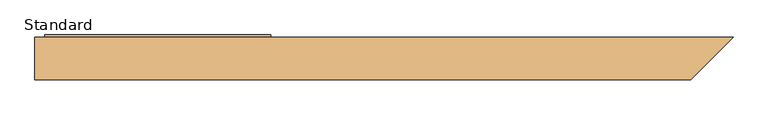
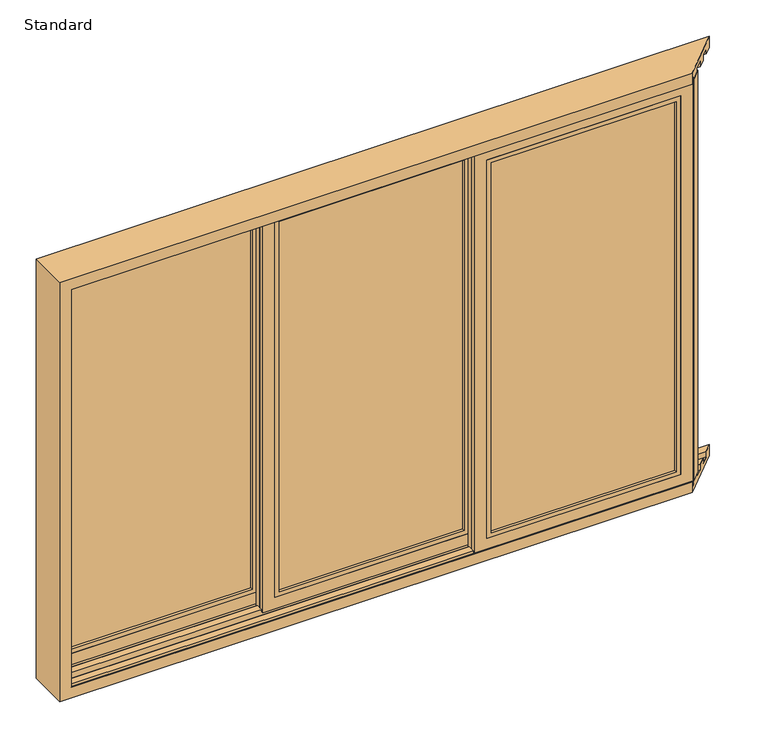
"""IFC4 building model written with IfcOpenShell, lengths in millimetres: door geometry, SMARTS_Visoglide Plus Corner Opening : Standard."""

from ifc_helpers import new_model, si_unit, frame, origin, place, context, project, spatial, polyline, outline, extrude, faceted_brep, source, transform, mapped, element, save


def standard_5c9ee6a3(model_context):
    return source(origin(), model_context, "Body", "SolidModel", [
        extrude(outline(polyline([(1348.0, -67.0), (484.8333333, -67.0), (484.8333333, -63.0), (1348.0, -63.0), (1348.0, -67.0)])), frame((0.0, 0.0, 952.5), z_axis=(0.0, 0.0, 1.0), x_axis=(1.0, 0.0, 0.0)), (0.0, 0.0, 1.0), 1795.0),
        extrude(outline(polyline([(1348.0, -47.0), (484.8333333, -47.0), (484.8333333, -43.0), (1348.0, -43.0), (1348.0, -47.0)])), frame((0.0, 0.0, 952.5), z_axis=(0.0, 0.0, 1.0), x_axis=(1.0, 0.0, 0.0)), (0.0, 0.0, 1.0), 1795.0),
        extrude(outline(polyline([(2747.5, 484.8333333), (952.5, 484.8333333), (952.5, 1348.0), (2747.5, 1348.0), (2747.5, 484.8333333)]), holes=[polyline([(2737.5, 1338.0), (962.5, 1338.0), (962.5, 494.8333333), (2737.5, 494.8333333), (2737.5, 1338.0)])]), frame((0.0, -63.0, 0.0), z_axis=(0.0, 1.0, 0.0), x_axis=(0.0, 0.0, 1.0)), (0.0, 0.0, 1.0), 16.0),
        extrude(outline(polyline([(2752.5, 1353.0), (2752.5, 479.8333333), (947.5, 479.8333333), (947.5, 1353.0), (2752.5, 1353.0)]), holes=[polyline([(967.5, 1333.0), (967.5, 499.8333333), (2732.5, 499.8333333), (2732.5, 1333.0), (967.5, 1333.0)])]), frame((0.0, -86.0, 0.0), z_axis=(0.0, 1.0, 0.0), x_axis=(0.0, 0.0, 1.0)), (0.0, 0.0, 1.0), 11.9897777),
        extrude(outline(polyline([(2806.5, 1407.0), (2806.5, 425.8333333), (893.5, 425.8333333), (893.5, 1407.0), (2806.5, 1407.0)]), holes=[polyline([(947.5, 1353.0), (947.5, 479.8333333), (2752.5, 479.8333333), (2752.5, 1353.0), (947.5, 1353.0)])]), frame((0.0, -86.0, 0.0), z_axis=(0.0, 1.0, 0.0), x_axis=(0.0, 0.0, 1.0)), (0.0, 0.0, 1.0), 24.0),
        faceted_brep([(1333.0, -39.0, 2732.5), (1333.0, -35.0, 2732.5), (1333.0, -35.0, 967.5), (1333.0, -39.0, 967.5), (1356.0, -62.0, 2755.5), (1356.0, -39.0, 2755.5), (1356.0, -39.0, 944.5), (1356.0, -62.0, 944.5), (1407.0, -35.0, 2806.5), (1407.0, -62.0, 2806.5), (1407.0, -62.0, 893.5), (1407.0, -35.0, 893.5), (499.8333333, -35.0, 967.5), (499.8333333, -39.0, 967.5), (476.8333333, -39.0, 944.5), (476.8333333, -62.0, 944.5), (425.8333333, -62.0, 893.5), (425.8333333, -35.0, 893.5), (499.8333333, -35.0, 2732.5), (499.8333333, -39.0, 2732.5), (476.8333333, -39.0, 2755.5), (476.8333333, -62.0, 2755.5), (425.8333333, -62.0, 2806.5), (425.8333333, -35.0, 2806.5)], [[[0, 1, 2, 3]], [[4, 5, 6, 7]], [[8, 9, 10, 11]], [[3, 2, 12, 13]], [[7, 6, 14, 15]], [[11, 10, 16, 17]], [[13, 12, 18, 19]], [[15, 14, 20, 21]], [[17, 16, 22, 23]], [[11, 17, 23, 8], [1, 18, 12, 2]], [[19, 18, 1, 0]], [[5, 20, 14, 6], [3, 13, 19, 0]], [[21, 20, 5, 4]], [[9, 22, 16, 10], [7, 15, 21, 4]], [[23, 22, 9, 8]]]),
        extrude(outline(polyline([(431.8333333, 0.0), (-431.3333333, 0.0), (-431.3333333, 4.0), (431.8333333, 4.0), (431.8333333, 0.0)])), frame((0.0, 0.0, 952.5), z_axis=(0.0, 0.0, 1.0), x_axis=(1.0, 0.0, 0.0)), (0.0, 0.0, 1.0), 1795.0),
        extrude(outline(polyline([(431.8333333, 20.0), (-431.3333333, 20.0), (-431.3333333, 24.0), (431.8333333, 24.0), (431.8333333, 20.0)])), frame((0.0, 0.0, 952.5), z_axis=(0.0, 0.0, 1.0), x_axis=(1.0, 0.0, 0.0)), (0.0, 0.0, 1.0), 1795.0),
        extrude(outline(polyline([(2747.5, -431.3333333), (952.5, -431.3333333), (952.5, 431.8333333), (2747.5, 431.8333333), (2747.5, -431.3333333)]), holes=[polyline([(2737.5, 421.8333333), (962.5, 421.8333333), (962.5, -421.3333333), (2737.5, -421.3333333), (2737.5, 421.8333333)])]), frame((0.0, 4.0, 0.0), z_axis=(0.0, 1.0, 0.0), x_axis=(0.0, 0.0, 1.0)), (0.0, 0.0, 1.0), 16.0),
        extrude(outline(polyline([(2752.5, 436.8333333), (2752.5, -436.3333333), (947.5, -436.3333333), (947.5, 436.8333333), (2752.5, 436.8333333)]), holes=[polyline([(967.5, 416.8333333), (967.5, -416.3333333), (2732.5, -416.3333333), (2732.5, 416.8333333), (967.5, 416.8333333)])]), frame((0.0, -19.0, 0.0), z_axis=(0.0, 1.0, 0.0), x_axis=(0.0, 0.0, 1.0)), (0.0, 0.0, 1.0), 11.9897777),
        extrude(outline(polyline([(2806.5, 490.8333333), (2806.5, -490.3333333), (893.5, -490.3333333), (893.5, 490.8333333), (2806.5, 490.8333333)]), holes=[polyline([(947.5, 436.8333333), (947.5, -436.3333333), (2752.5, -436.3333333), (2752.5, 436.8333333), (947.5, 436.8333333)])]), frame((0.0, -19.0, 0.0), z_axis=(0.0, 1.0, 0.0), x_axis=(0.0, 0.0, 1.0)), (0.0, 0.0, 1.0), 24.0),
        faceted_brep([(416.8333333, 28.0, 2732.5), (416.8333333, 32.0, 2732.5), (416.8333333, 32.0, 967.5), (416.8333333, 28.0, 967.5), (439.8333333, 5.0, 2755.5), (439.8333333, 28.0, 2755.5), (439.8333333, 28.0, 944.5), (439.8333333, 5.0, 944.5), (490.8333333, 32.0, 2806.5), (490.8333333, 5.0, 2806.5), (490.8333333, 5.0, 893.5), (490.8333333, 32.0, 893.5), (-416.3333333, 32.0, 967.5), (-416.3333333, 28.0, 967.5), (-439.3333333, 28.0, 944.5), (-439.3333333, 5.0, 944.5), (-490.3333333, 5.0, 893.5), (-490.3333333, 32.0, 893.5), (-416.3333333, 32.0, 2732.5), (-416.3333333, 28.0, 2732.5), (-439.3333333, 28.0, 2755.5), (-439.3333333, 5.0, 2755.5), (-490.3333333, 5.0, 2806.5), (-490.3333333, 32.0, 2806.5)], [[[0, 1, 2, 3]], [[4, 5, 6, 7]], [[8, 9, 10, 11]], [[3, 2, 12, 13]], [[7, 6, 14, 15]], [[11, 10, 16, 17]], [[13, 12, 18, 19]], [[15, 14, 20, 21]], [[17, 16, 22, 23]], [[11, 17, 23, 8], [1, 18, 12, 2]], [[19, 18, 1, 0]], [[5, 20, 14, 6], [3, 13, 19, 0]], [[21, 20, 5, 4]], [[9, 22, 16, 10], [7, 15, 21, 4]], [[23, 22, 9, 8]]]),
        extrude(outline(polyline([(-484.3333333, 67.0), (-1347.5, 67.0), (-1347.5, 71.0), (-484.3333333, 71.0), (-484.3333333, 67.0)])), frame((0.0, 0.0, 952.5), z_axis=(0.0, 0.0, 1.0), x_axis=(1.0, 0.0, 0.0)), (0.0, 0.0, 1.0), 1795.0),
        extrude(outline(polyline([(-484.3333333, 87.0), (-1347.5, 87.0), (-1347.5, 91.0), (-484.3333333, 91.0), (-484.3333333, 87.0)])), frame((0.0, 0.0, 952.5), z_axis=(0.0, 0.0, 1.0), x_axis=(1.0, 0.0, 0.0)), (0.0, 0.0, 1.0), 1795.0),
        extrude(outline(polyline([(2747.5, -1347.5), (952.5, -1347.5), (952.5, -484.3333333), (2747.5, -484.3333333), (2747.5, -1347.5)]), holes=[polyline([(2737.5, -494.3333333), (962.5, -494.3333333), (962.5, -1337.5), (2737.5, -1337.5), (2737.5, -494.3333333)])]), frame((0.0, 71.0, 0.0), z_axis=(0.0, 1.0, 0.0), x_axis=(0.0, 0.0, 1.0)), (0.0, 0.0, 1.0), 16.0),
        extrude(outline(polyline([(2752.5, -479.3333333), (2752.5, -1352.5), (947.5, -1352.5), (947.5, -479.3333333), (2752.5, -479.3333333)]), holes=[polyline([(967.5, -499.3333333), (967.5, -1332.5), (2732.5, -1332.5), (2732.5, -499.3333333), (967.5, -499.3333333)])]), frame((0.0, 48.0, 0.0), z_axis=(0.0, 1.0, 0.0), x_axis=(0.0, 0.0, 1.0)), (0.0, 0.0, 1.0), 11.9897777),
        extrude(outline(polyline([(2806.5, -425.3333333), (2806.5, -1406.5), (893.5, -1406.5), (893.5, -425.3333333), (2806.5, -425.3333333)]), holes=[polyline([(947.5, -479.3333333), (947.5, -1352.5), (2752.5, -1352.5), (2752.5, -479.3333333), (947.5, -479.3333333)])]), frame((0.0, 48.0, 0.0), z_axis=(0.0, 1.0, 0.0), x_axis=(0.0, 0.0, 1.0)), (0.0, 0.0, 1.0), 24.0),
        faceted_brep([(-499.3333333, 95.0, 2732.5), (-499.3333333, 99.0, 2732.5), (-499.3333333, 99.0, 967.5), (-499.3333333, 95.0, 967.5), (-476.3333333, 72.0, 2755.5), (-476.3333333, 95.0, 2755.5), (-476.3333333, 95.0, 944.5), (-476.3333333, 72.0, 944.5), (-425.3333333, 99.0, 2806.5), (-425.3333333, 72.0, 2806.5), (-425.3333333, 72.0, 893.5), (-425.3333333, 99.0, 893.5), (-1332.5, 99.0, 967.5), (-1332.5, 95.0, 967.5), (-1355.5, 95.0, 944.5), (-1355.5, 72.0, 944.5), (-1406.5, 72.0, 893.5), (-1406.5, 99.0, 893.5), (-1332.5, 99.0, 2732.5), (-1332.5, 95.0, 2732.5), (-1355.5, 95.0, 2755.5), (-1355.5, 72.0, 2755.5), (-1406.5, 72.0, 2806.5), (-1406.5, 99.0, 2806.5)], [[[0, 1, 2, 3]], [[4, 5, 6, 7]], [[8, 9, 10, 11]], [[3, 2, 12, 13]], [[7, 6, 14, 15]], [[11, 10, 16, 17]], [[13, 12, 18, 19]], [[15, 14, 20, 21]], [[17, 16, 22, 23]], [[11, 17, 23, 8], [1, 18, 12, 2]], [[19, 18, 1, 0]], [[5, 20, 14, 6], [3, 13, 19, 0]], [[21, 20, 5, 4]], [[9, 22, 16, 10], [7, 15, 21, 4]], [[23, 22, 9, 8]]]),
        faceted_brep([(-1450.0, 89.39785, 2850.0), (-1450.0, -95.0, 2850.0), (1400.0728753, -95.0, 2850.0), (1584.4707253, 89.39785, 2850.0), (-1398.1999999, -95.0, 2798.1999999), (-1398.1999999, -91.0, 2798.1999999), (1404.0728753, -91.0, 2798.1999999), (1400.0728753, -95.0, 2798.1999999), (-1424.1999999, -91.0, 2824.1999999), (-1424.1999999, -76.3, 2824.1999999), (1418.7728753, -76.3, 2824.1999999), (1404.0728753, -91.0, 2824.1999999), (-1398.1999999, -76.3, 2798.1999999), (-1398.1999999, -43.7842251, 2798.1999999), (1451.2886502, -43.7842251, 2798.1999999), (1418.7728753, -76.3, 2798.1999999), (-1424.1999999, -43.7842251, 2824.1999999), (-1424.1999999, -9.7842251, 2824.1999999), (1485.2886502, -9.7842251, 2824.1999999), (1451.2886502, -43.7842251, 2824.1999999), (-1398.1999999, -9.7842251, 2798.1999999), (-1398.1999999, 22.7989407, 2798.1999999), (1517.8718161, 22.7989407, 2798.1999999), (1485.2886502, -9.7842251, 2798.1999999), (-1424.2, 22.7989407, 2824.2), (-1424.2, 56.7989407, 2824.2), (1551.8718161, 56.7989407, 2824.2), (1517.8718161, 22.7989407, 2824.2), (-1398.0, 56.7989407, 2798.0), (-1398.0, 89.39785, 2798.0), (1584.4707253, 89.39785, 2798.0), (1551.8718161, 56.7989407, 2798.0), (-1450.0, 89.39785, 850.0), (-1450.0, -95.0, 850.0), (-1398.1999999, -95.0, 901.8000001), (-1398.1999999, -91.0, 901.8000001), (-1424.1999999, -91.0, 875.8000001), (-1424.1999999, -76.3, 875.8000001), (-1398.1999999, -76.3, 901.8000001), (-1398.1999999, -43.7842251, 901.8000001), (-1424.1999999, -43.7842251, 875.8000001), (-1424.1999999, -9.7842251, 875.8000001), (-1398.1999999, -9.7842251, 901.8000001), (-1398.1999999, 22.7989407, 901.8000001), (-1424.2, 22.7989407, 875.8), (-1424.2, 56.7989407, 875.8), (-1398.0, 56.7989407, 902.0), (-1398.0, 89.39785, 902.0), (1584.4707253, 89.39785, 850.0), (1400.0728753, -95.0, 850.0), (1400.0728753, -95.0, 901.8000001), (1404.0728753, -91.0, 901.8000001), (1404.0728753, -91.0, 875.8000001), (1418.7728753, -76.3, 875.8000001), (1418.7728753, -76.3, 901.8000001), (1451.2886502, -43.7842251, 901.8000001), (1451.2886502, -43.7842251, 875.8000001), (1485.2886502, -9.7842251, 875.8000001), (1485.2886502, -9.7842251, 901.8000001), (1517.8718161, 22.7989407, 901.8000001), (1517.8718161, 22.7989407, 875.8), (1551.8718161, 56.7989407, 875.8), (1551.8718161, 56.7989407, 902.0), (1584.4707253, 89.39785, 902.0)], [[[0, 1, 2, 3]], [[4, 5, 6, 7]], [[8, 9, 10, 11]], [[12, 13, 14, 15]], [[16, 17, 18, 19]], [[20, 21, 22, 23]], [[24, 25, 26, 27]], [[28, 29, 30, 31]], [[1, 0, 32, 33]], [[5, 4, 34, 35]], [[9, 8, 36, 37]], [[13, 12, 38, 39]], [[17, 16, 40, 41]], [[21, 20, 42, 43]], [[25, 24, 44, 45]], [[29, 28, 46, 47]], [[33, 32, 48, 49]], [[35, 34, 50, 51]], [[37, 36, 52, 53]], [[39, 38, 54, 55]], [[41, 40, 56, 57]], [[43, 42, 58, 59]], [[45, 44, 60, 61]], [[47, 46, 62, 63]], [[32, 0, 3, 30, 29, 47, 63, 48]], [[1, 33, 49, 50, 34, 4, 7, 2]], [[5, 35, 51, 52, 36, 8, 11, 6]], [[9, 37, 53, 54, 38, 12, 15, 10]], [[13, 39, 55, 56, 40, 16, 19, 14]], [[17, 41, 57, 58, 42, 20, 23, 18]], [[21, 43, 59, 60, 44, 24, 27, 22]], [[25, 45, 61, 62, 46, 28, 31, 26]], [[3, 2, 7, 6, 11, 10, 15, 14, 19, 18, 23, 22, 27, 26, 31, 30]], [[49, 48, 63, 62, 61, 60, 59, 58, 57, 56, 55, 54, 53, 52, 51, 50]]]),
        extrude(outline(polyline([(1460.5728753, -35.0), (1413.8728753, -81.7), (1407.0, -81.7), (1407.0, -35.0), (1460.5728753, -35.0)])), frame((0.0, 0.0, 893.5), z_axis=(0.0, 0.0, 1.0), x_axis=(1.0, 0.0, 0.0)), (0.0, 0.0, 1.0), 1913.0),
    ])


if __name__ == "__main__":
    model = new_model("IFC4")
    model_context = context("Model", 3, world=origin())
    ifc_project = project(units=[si_unit("LENGTHUNIT", "METRE", prefix="MILLI")], contexts=[model_context])
    site = spatial("IfcSite", under=ifc_project)
    building = spatial("IfcBuilding", under=site)
    placement = place(None, origin())
    standard_shape = standard_5c9ee6a3(model_context)
    element("IfcDoor", 1, ObjectType="SMARTS_Visoglide Plus Corner Opening : Standard", at=placement, inside=building, context=model_context, shape_type="MappedRepresentation", body=[
        mapped(standard_shape, transform((0.0, 0.0, 0.0), x_axis=(1.0, 0.0, 0.0), y_axis=(0.0, 1.0, 0.0), z_axis=(0.0, 0.0, 1.0))),
    ])
    save(model, "model.ifc")
